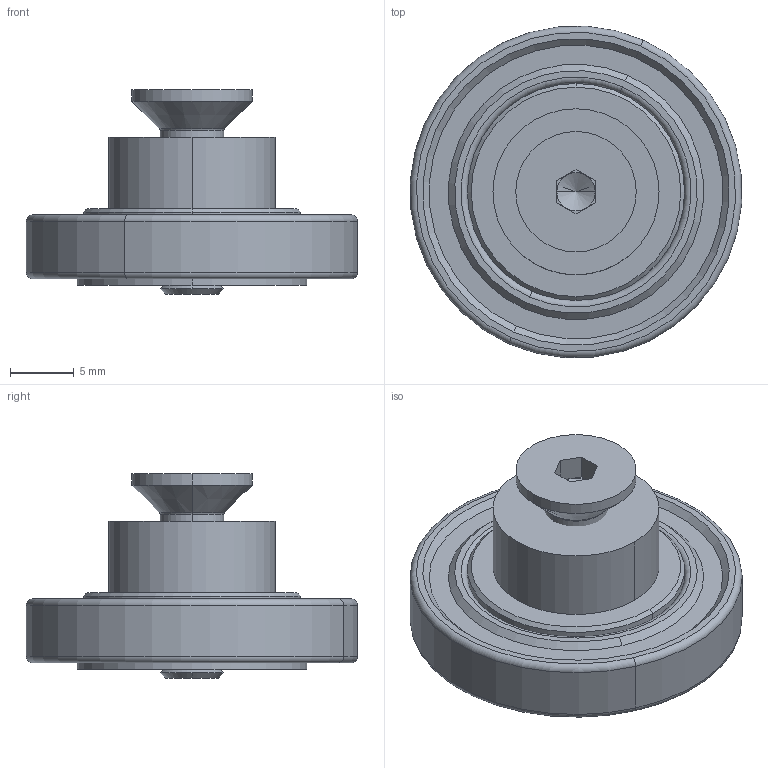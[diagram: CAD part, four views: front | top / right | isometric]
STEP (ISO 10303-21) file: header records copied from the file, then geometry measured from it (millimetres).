
FILE_DESCRIPTION (( 'STEP AP203' ), '1' );
FILE_NAME ('801.001.001.STEP', '2013-01-21T14:39:38', ( 'Alusic' ), ( 'Alusic' ), 'SwSTEP 2.0', 'SolidWorks 2011', '' );
FILE_SCHEMA (( 'CONFIG_CONTROL_DESIGN' ));
Length unit declared in the file: millimetre
Products named in the file (4): CUSCINETTI A SFERE_61803-2RS; 801.001.001-P; 801.001.001; Socket Countersunk Head Screw_ISO_ISO 10642 - M5 x 16 --- 16S
Assembly tree (3 placements, depth 2):
  801.001.001
    Socket Countersunk Head Screw_ISO_ISO 10642 - M5 x 16 --- 16S
    801.001.001-P
    CUSCINETTI A SFERE_61803-2RS
Bounding box: 25.94 x 25.94 x 16 mm (x, y, z)
Volume: 3687.5 mm3; surface area: 2943.1 mm2
Topology: 3 solids, 3 shells, 148 faces, 356 edges, 219 vertices
Faces by surface type: cone 72, cylinder 42, plane 24, torus 10
Entity records: 4768 total; most frequent: DIRECTION 878, CARTESIAN_POINT 727, ORIENTED_EDGE 708, AXIS2_PLACEMENT_3D 370, EDGE_CURVE 354, VERTEX_POINT 219, CIRCLE 216, EDGE_LOOP 159
